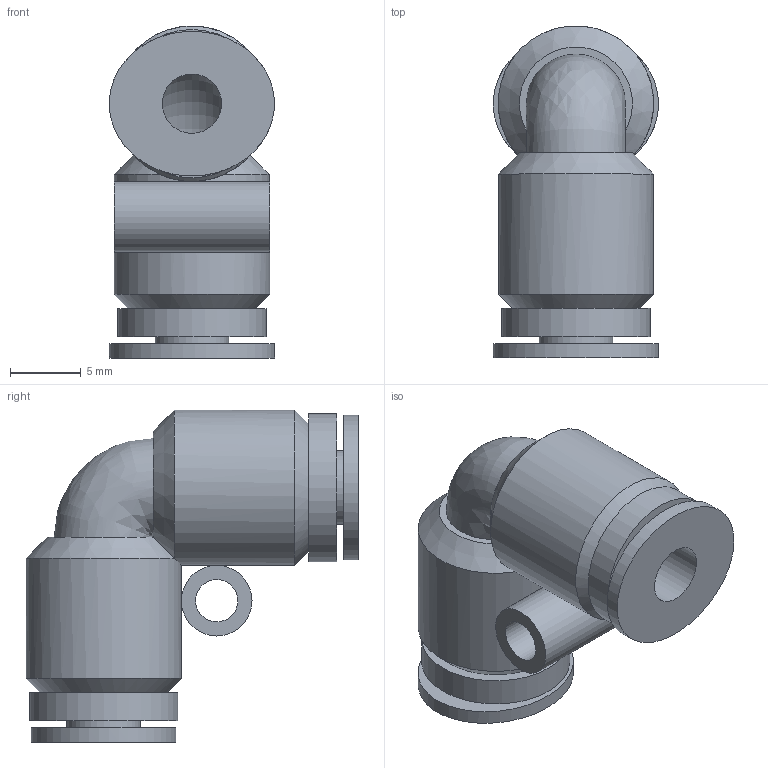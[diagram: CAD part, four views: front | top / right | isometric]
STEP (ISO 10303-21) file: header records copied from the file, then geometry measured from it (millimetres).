
FILE_DESCRIPTION(/* description */ (''),/* implementation_level */ '2;1');
FILE_NAME(/* name */ 'K:\Złączki\137\137.004\137.004.stp',/* time_stamp */ '2014-09-08T14:32:07+02:00',/* author */ ('Praktykant1'),/* organization */ (''),/* preprocessor_version */ 'ST-DEVELOPER v15.6',/* originating_system */ 'Autodesk Inventor 2015',/* authorisation */ '');
FILE_SCHEMA (('AUTOMOTIVE_DESIGN { 1 0 10303 214 3 1 1 }'));
Length unit declared in the file: millimetre
Products named in the file (4): 00-01 Obudowa; 00-02 Pierscień mocujący; 00-03 Łącznik; 137.004
Bounding box: 11.69 x 23.5 x 23.5 mm (x, y, z)
Volume: 2104.2 mm3; surface area: 3161.5 mm2
Topology: 6 solids, 6 shells, 38 faces, 70 edges, 43 vertices
Faces by surface type: plane 16, cylinder 14, cone 4, bspline 3, torus 1
Full cylindrical faces by diameter (mm): 3 x1, 4.2 x2, 5 x1, 5.2 x4, 6 x2, 10.5 x2, 11 x2
Entity records: 759 total; most frequent: CARTESIAN_POINT 146, DIRECTION 130, ORIENTED_EDGE 68, AXIS2_PLACEMENT_3D 64, EDGE_LOOP 50, EDGE_CURVE 34, FACE_OUTER_BOUND 28, ADVANCED_FACE 28
